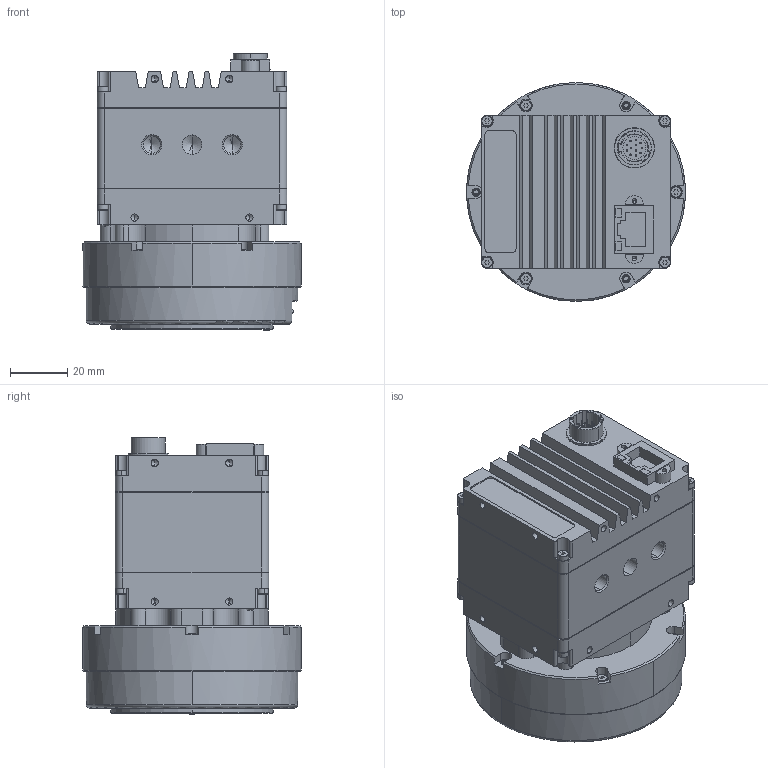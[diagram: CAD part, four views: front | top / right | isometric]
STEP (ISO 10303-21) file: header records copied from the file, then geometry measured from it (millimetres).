
FILE_DESCRIPTION (( 'STEP AP214' ), '1' );
FILE_NAME ('GTLF PYTHON PA F-MOUNT MONO.STEP', '2018-01-11T22:48:04', ( '' ), ( '' ), 'SwSTEP 2.0', 'SolidWorks 2017', '' );
FILE_SCHEMA (( 'AUTOMOTIVE_DESIGN' ));
Length unit declared in the file: millimetre
Products named in the file (4): GTLF BODY ASSY - defeatured_GT PYTHON; GTLF PYTHON PA F-MOUNT MONO; PA NIKON F FRONT ASSY - defeatured; GTLF PA FRONT ASSY - defeatured
Assembly tree (3 placements, depth 2):
  GTLF PYTHON PA F-MOUNT MONO
    GTLF BODY ASSY - defeatured_GT PYTHON
    GTLF PA FRONT ASSY - defeatured
    PA NIKON F FRONT ASSY - defeatured
Bounding box: 76.2 x 76.2 x 96.39 mm (x, y, z)
Volume: 219725.8 mm3; surface area: 62343.5 mm2
Topology: 3 solids, 11 shells, 1109 faces, 2805 edges, 1726 vertices
Faces by surface type: plane 412, cylinder 410, cone 174, bspline 65, sphere 26, torus 22
Entity records: 55563 total; most frequent: CARTESIAN_POINT 24296, DIRECTION 5558, ORIENTED_EDGE 5330, EDGE_CURVE 2665, AXIS2_PLACEMENT_3D 2091, VERTEX_POINT 1702, LINE 1376, VECTOR 1376
